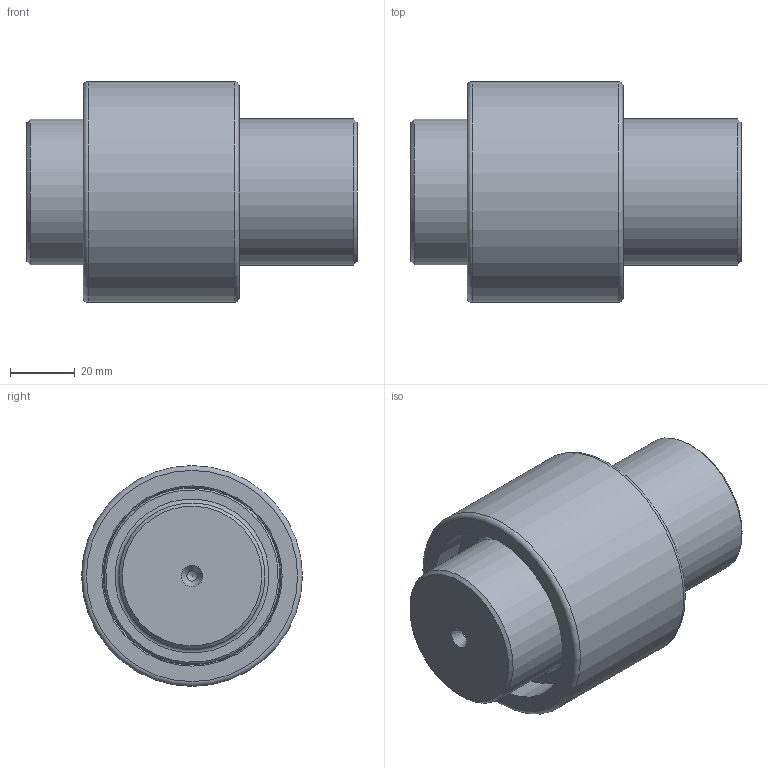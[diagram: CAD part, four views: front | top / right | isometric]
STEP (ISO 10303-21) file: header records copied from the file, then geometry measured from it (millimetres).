
FILE_DESCRIPTION(/* description */ (''),/* implementation_level */ '2;1');
FILE_NAME(/* name */ 'C:\Users\stagistacad\Desktop\00102800.stp',/* time_stamp */ '2018-06-18T16:34:21+02:00',/* author */ ('stagistacad'),/* organization */ (''),/* preprocessor_version */ 'ST-DEVELOPER v15.6',/* originating_system */ 'Autodesk Inventor 2015',/* authorisation */ '');
FILE_SCHEMA (('AUTOMOTIVE_DESIGN { 1 0 10303 214 3 1 1 }'));
Length unit declared in the file: millimetre
Products named in the file (4): 00102810; 00102820; 00102840; 00102800
Bounding box: 101.64 x 68 x 68 mm (x, y, z)
Volume: 238738.3 mm3; surface area: 44798.9 mm2
Topology: 3 solids, 3 shells, 52 faces, 100 edges, 58 vertices
Faces by surface type: cone 18, cylinder 12, plane 10, torus 10, bspline 2
Full cylindrical faces by diameter (mm): 3.15 x4, 45 x4, 48.5 x1, 55.5 x2, 68 x1
Entity records: 1213 total; most frequent: CARTESIAN_POINT 225, DIRECTION 222, ORIENTED_EDGE 112, AXIS2_PLACEMENT_3D 111, EDGE_LOOP 98, EDGE_CURVE 56, CIRCLE 54, VERTEX_POINT 54
